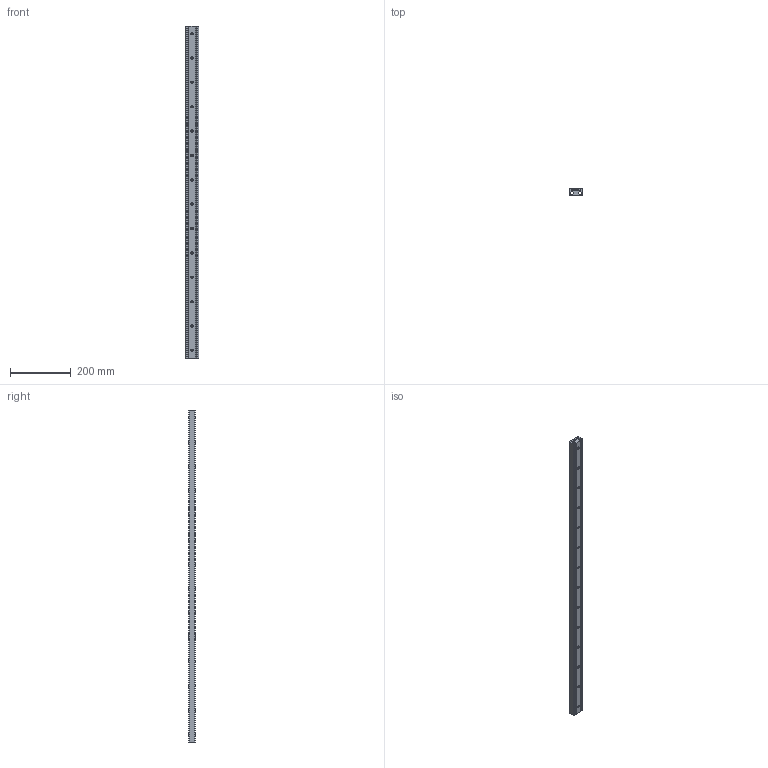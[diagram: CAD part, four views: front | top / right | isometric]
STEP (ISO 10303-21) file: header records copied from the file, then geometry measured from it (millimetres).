
FILE_DESCRIPTION(('STEP AP214'),'1');
FILE_NAME('rail_asn43-1090_00.stp','2017-06-06T10:16:50',('TraceParts'),('TraceParts S.A.'),'Spatial InterOp 3D',' ',' ');
FILE_SCHEMA(('automotive_design'));
Length unit declared in the file: millimetre
Products named in the file (2): rail_asn43-1090_00_1; rail_asn43-1090_00_2
Bounding box: 43 x 22.01 x 1090 mm (x, y, z)
Volume: 663473.9 mm3; surface area: 256980.3 mm2
Topology: 2 solids, 2 shells, 217 faces, 540 edges, 332 vertices
Faces by surface type: cylinder 87, cone 84, plane 46
Entity records: 6602 total; most frequent: DIRECTION 1236, CARTESIAN_POINT 1091, ORIENTED_EDGE 1080, EDGE_CURVE 540, AXIS2_PLACEMENT_3D 477, VERTEX_POINT 332, LINE 282, VECTOR 282
